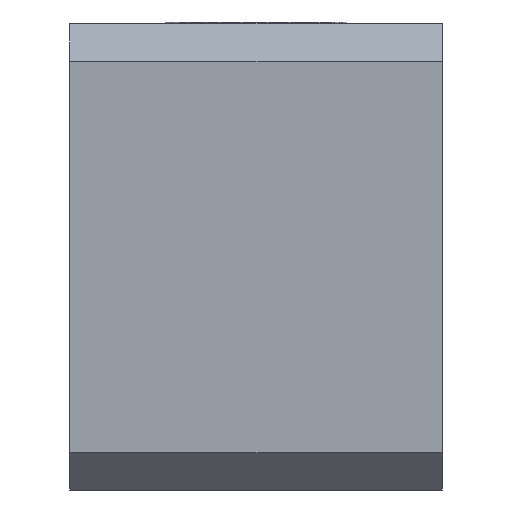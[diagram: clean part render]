
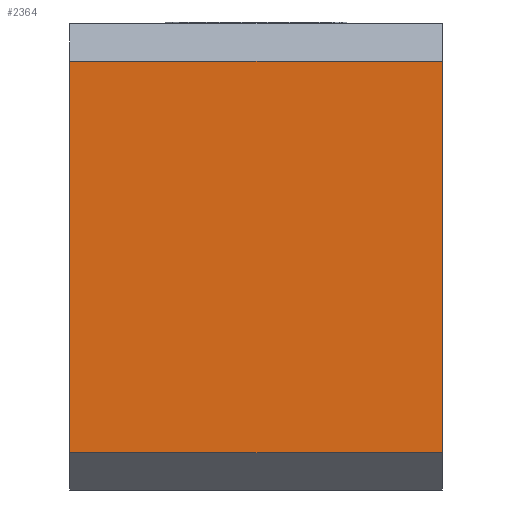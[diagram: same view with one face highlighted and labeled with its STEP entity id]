
A CAD part, front view. The second image highlights one B-rep face of the part: STEP entity #2364.
In plain terms, the highlighted planar face has unit normal (0, -1, 0).
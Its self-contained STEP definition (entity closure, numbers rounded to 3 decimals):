
#90 = AXIS2_PLACEMENT_3D ( 'NONE', #13332, #14690, #3592 ) ;
#246 = DIRECTION ( 'NONE',  ( 0., 0., 1. ) ) ;
#1272 = CARTESIAN_POINT ( 'NONE',  ( 10., -25., 12.5 ) ) ;
#1320 = ORIENTED_EDGE ( 'NONE', *, *, #11787, .T. ) ;
#2325 = PLANE ( 'NONE',  #90 ) ;
#2364 = ADVANCED_FACE ( 'NONE', ( #2657 ), #2325, .F. ) ;
#2657 = FACE_OUTER_BOUND ( 'NONE', #2878, .T. ) ;
#2878 = EDGE_LOOP ( 'NONE', ( #17223, #5084, #8974, #1320 ) ) ;
#3165 = EDGE_CURVE ( 'NONE', #8492, #11961, #11359, .T. ) ;
#3168 = CARTESIAN_POINT ( 'NONE',  ( 0., -25., 23. ) ) ;
#3536 = CARTESIAN_POINT ( 'NONE',  ( 0., -25., 2. ) ) ;
#3592 = DIRECTION ( 'NONE',  ( 0., 0., 1. ) ) ;
#3962 = VECTOR ( 'NONE', #12683, 1000. ) ;
#5084 = ORIENTED_EDGE ( 'NONE', *, *, #3165, .T. ) ;
#6810 = VERTEX_POINT ( 'NONE', #14604 ) ;
#7673 = EDGE_CURVE ( 'NONE', #6810, #11961, #15223, .T. ) ;
#8021 = EDGE_CURVE ( 'NONE', #8492, #12345, #12245, .T. ) ;
#8492 = VERTEX_POINT ( 'NONE', #16471 ) ;
#8846 = CARTESIAN_POINT ( 'NONE',  ( -10., -25., 2. ) ) ;
#8974 = ORIENTED_EDGE ( 'NONE', *, *, #7673, .F. ) ;
#10294 = CARTESIAN_POINT ( 'NONE',  ( 10., -25., 23. ) ) ;
#11359 = LINE ( 'NONE', #1272, #16250 ) ;
#11787 = EDGE_CURVE ( 'NONE', #6810, #12345, #13176, .T. ) ;
#11832 = VECTOR ( 'NONE', #13628, 1000. ) ;
#11961 = VERTEX_POINT ( 'NONE', #10294 ) ;
#12245 = LINE ( 'NONE', #3536, #11832 ) ;
#12345 = VERTEX_POINT ( 'NONE', #8846 ) ;
#12683 = DIRECTION ( 'NONE',  ( 0., 0., -1. ) ) ;
#13176 = LINE ( 'NONE', #16648, #3962 ) ;
#13332 = CARTESIAN_POINT ( 'NONE',  ( -10., -25., 2. ) ) ;
#13628 = DIRECTION ( 'NONE',  ( -1., 0., 0. ) ) ;
#14604 = CARTESIAN_POINT ( 'NONE',  ( -10., -25., 23. ) ) ;
#14690 = DIRECTION ( 'NONE',  ( 0., 1., 0. ) ) ;
#15223 = LINE ( 'NONE', #3168, #16956 ) ;
#16250 = VECTOR ( 'NONE', #246, 1000. ) ;
#16471 = CARTESIAN_POINT ( 'NONE',  ( 10., -25., 2. ) ) ;
#16648 = CARTESIAN_POINT ( 'NONE',  ( -10., -25., 12.5 ) ) ;
#16670 = DIRECTION ( 'NONE',  ( 1., 0., 0. ) ) ;
#16956 = VECTOR ( 'NONE', #16670, 1000. ) ;
#17223 = ORIENTED_EDGE ( 'NONE', *, *, #8021, .F. ) ;
